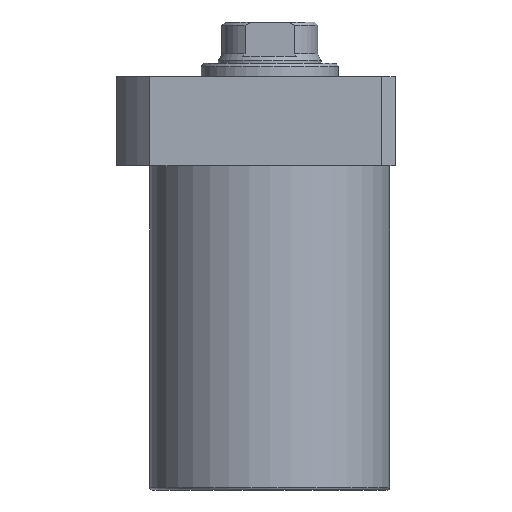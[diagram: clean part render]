
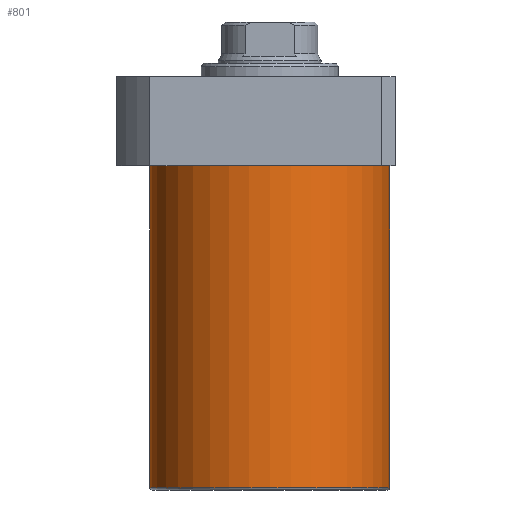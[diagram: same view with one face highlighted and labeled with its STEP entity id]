
A CAD part, front view. The second image highlights one B-rep face of the part: STEP entity #801.
In plain terms, the highlighted cylindrical face has radius 52.5 mm (diameter 105 mm), a partial arc.
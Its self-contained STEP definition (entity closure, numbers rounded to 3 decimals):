
#108 = AXIS2_PLACEMENT_3D ( 'NONE', #545, #698, #869 ) ;
#207 = ORIENTED_EDGE ( 'NONE', *, *, #1606, .T. ) ;
#275 = CARTESIAN_POINT ( 'NONE',  ( 0., 0., -160.5 ) ) ;
#456 = VERTEX_POINT ( 'NONE', #1733 ) ;
#517 = VERTEX_POINT ( 'NONE', #1037 ) ;
#545 = CARTESIAN_POINT ( 'NONE',  ( 0., 0., -19.5 ) ) ;
#580 = LINE ( 'NONE', #1878, #1081 ) ;
#698 = DIRECTION ( 'NONE',  ( 0., 0., -1. ) ) ;
#718 = CARTESIAN_POINT ( 'NONE',  ( -52.5, 0., -161.5 ) ) ;
#770 = VERTEX_POINT ( 'NONE', #774 ) ;
#773 = DIRECTION ( 'NONE',  ( -1., 0., 0. ) ) ;
#774 = CARTESIAN_POINT ( 'NONE',  ( -52.5, 0., -19.5 ) ) ;
#801 = ADVANCED_FACE ( 'NONE', ( #806 ), #1899, .T. ) ;
#806 = FACE_OUTER_BOUND ( 'NONE', #1780, .T. ) ;
#807 = CIRCLE ( 'NONE', #108, 52.5 ) ;
#821 = LINE ( 'NONE', #718, #986 ) ;
#825 = EDGE_CURVE ( 'NONE', #517, #917, #580, .T. ) ;
#869 = DIRECTION ( 'NONE',  ( 1., 0., 0. ) ) ;
#894 = AXIS2_PLACEMENT_3D ( 'NONE', #1394, #1112, #1704 ) ;
#917 = VERTEX_POINT ( 'NONE', #1890 ) ;
#986 = VECTOR ( 'NONE', #1646, 1000. ) ;
#1037 = CARTESIAN_POINT ( 'NONE',  ( 52.5, 0., -160.5 ) ) ;
#1041 = EDGE_CURVE ( 'NONE', #917, #770, #807, .T. ) ;
#1081 = VECTOR ( 'NONE', #1895, 1000. ) ;
#1112 = DIRECTION ( 'NONE',  ( 0., 0., 1. ) ) ;
#1116 = ORIENTED_EDGE ( 'NONE', *, *, #1152, .F. ) ;
#1152 = EDGE_CURVE ( 'NONE', #456, #770, #821, .T. ) ;
#1394 = CARTESIAN_POINT ( 'NONE',  ( 0., 0., -161.5 ) ) ;
#1473 = ORIENTED_EDGE ( 'NONE', *, *, #825, .T. ) ;
#1513 = DIRECTION ( 'NONE',  ( 0., 0., 1. ) ) ;
#1570 = ORIENTED_EDGE ( 'NONE', *, *, #1041, .T. ) ;
#1606 = EDGE_CURVE ( 'NONE', #456, #517, #1791, .T. ) ;
#1646 = DIRECTION ( 'NONE',  ( 0., 0., 1. ) ) ;
#1704 = DIRECTION ( 'NONE',  ( 1., 0., 0. ) ) ;
#1733 = CARTESIAN_POINT ( 'NONE',  ( -52.5, 0., -160.5 ) ) ;
#1780 = EDGE_LOOP ( 'NONE', ( #1116, #207, #1473, #1570 ) ) ;
#1791 = CIRCLE ( 'NONE', #1853, 52.5 ) ;
#1853 = AXIS2_PLACEMENT_3D ( 'NONE', #275, #1513, #773 ) ;
#1878 = CARTESIAN_POINT ( 'NONE',  ( 52.5, 0., -161.5 ) ) ;
#1890 = CARTESIAN_POINT ( 'NONE',  ( 52.5, 0., -19.5 ) ) ;
#1895 = DIRECTION ( 'NONE',  ( 0., 0., 1. ) ) ;
#1899 = CYLINDRICAL_SURFACE ( 'NONE', #894, 52.5 ) ;
